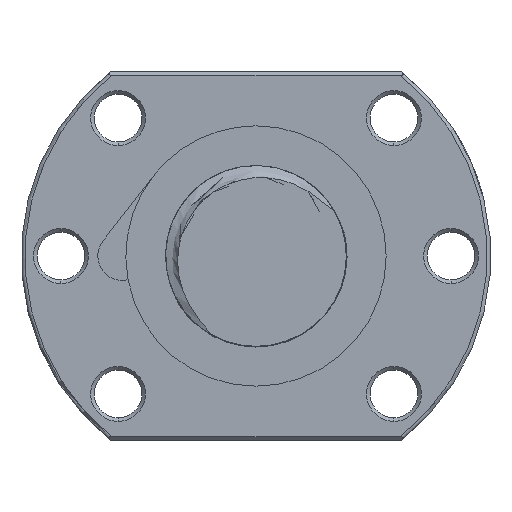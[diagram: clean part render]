
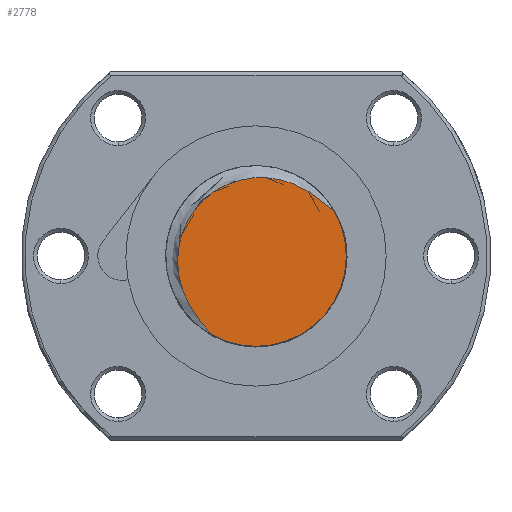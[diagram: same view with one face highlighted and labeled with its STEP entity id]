
A CAD part, left-side view. The second image highlights one B-rep face of the part: STEP entity #2778.
In plain terms, the highlighted planar face has unit normal (-1, 0, 0).
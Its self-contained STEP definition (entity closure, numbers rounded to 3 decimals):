
#1991 = VERTEX_POINT ( 'NONE', #10644 ) ;
#2000 = VERTEX_POINT ( 'NONE', #10695 ) ;
#2102 = EDGE_CURVE ( 'NONE', #2000, #1991, #16115, .T. ) ;
#2778 = ADVANCED_FACE ( 'NONE', ( #22899 ), #22891, .F. ) ;
#2779 = EDGE_LOOP ( 'NONE', ( #2780, #2781, #2783 ) ) ;
#2780 = ORIENTED_EDGE ( 'NONE', *, *, #2874, .F. ) ;
#2781 = ORIENTED_EDGE ( 'NONE', *, *, #2782, .T. ) ;
#2782 = EDGE_CURVE ( 'NONE', #2875, #1991, #22885, .T. ) ;
#2783 = ORIENTED_EDGE ( 'NONE', *, *, #2102, .F. ) ;
#2874 = EDGE_CURVE ( 'NONE', #2875, #2000, #24048, .T. ) ;
#2875 = VERTEX_POINT ( 'NONE', #24043 ) ;
#10644 = CARTESIAN_POINT ( 'NONE',  ( -95., 6.195, -10.857 ) ) ;
#10695 = CARTESIAN_POINT ( 'NONE',  ( -95., 0., -12.5 ) ) ;
#16111 = DIRECTION ( 'NONE',  ( 0., 1., 0. ) ) ;
#16112 = DIRECTION ( 'NONE',  ( 1., 0., 0. ) ) ;
#16113 = CARTESIAN_POINT ( 'NONE',  ( -95., 0., 0. ) ) ;
#16114 = AXIS2_PLACEMENT_3D ( 'NONE', #16113, #16112, #16111 ) ;
#16115 = CIRCLE ( 'NONE', #16114, 12.5 ) ;
#22885 = B_SPLINE_CURVE_WITH_KNOTS ( 'NONE', 3,
 ( #22955, #22954, #22953, #22952, #22951, #22950, #22949, #22948, #22947, #22946, #22945, #22944, #22943, #22942, #22941, #22940, #22939, #22938, #22937, #22936, #22935, #22934, #22933, #22932, #22931, #22930, #22929, #22928, #22927, #22926, #22925, #22924, #22923, #22922, #22921, #22920, #22919, #22918, #22917, #22916, #22915, #22914, #22913, #22912, #22911, #22910, #22909, #22908, #22907, #22906, #22992, #22991, #22990, #22989, #22988, #22987, #22986, #22985, #22984, #22983 ),
 .UNSPECIFIED., .F., .F.,
 ( 4, 2, 2, 2, 2, 2, 2, 2, 2, 2, 2, 2, 2, 2, 2, 2, 2, 2, 2, 2, 2, 2, 2, 2, 2, 2, 2, 2, 2, 4 ),
 ( 0.009, 0.01, 0.01, 0.011, 0.013, 0.014, 0.016, 0.018, 0.019, 0.022, 0.023, 0.024, 0.025, 0.027, 0.029, 0.03, 0.032, 0.033, 0.034, 0.037, 0.038, 0.039, 0.04, 0.042, 0.044, 0.045, 0.047, 0.048, 0.049, 0.049 ),
 .UNSPECIFIED. ) ;
#22887 = DIRECTION ( 'NONE',  ( 0., 0., -1. ) ) ;
#22888 = DIRECTION ( 'NONE',  ( 1., 0., 0. ) ) ;
#22889 = CARTESIAN_POINT ( 'NONE',  ( -95., 0., 0. ) ) ;
#22890 = AXIS2_PLACEMENT_3D ( 'NONE', #22889, #22888, #22887 ) ;
#22891 = PLANE ( 'NONE',  #22890 ) ;
#22899 = FACE_OUTER_BOUND ( 'NONE', #2779, .T. ) ;
#22906 = CARTESIAN_POINT ( 'NONE',  ( -95., 9.046, -7.083 ) ) ;
#22907 = CARTESIAN_POINT ( 'NONE',  ( -95., 9.663, -5.958 ) ) ;
#22908 = CARTESIAN_POINT ( 'NONE',  ( -95., 10.005, -5.177 ) ) ;
#22909 = CARTESIAN_POINT ( 'NONE',  ( -95., 10.397, -3.95 ) ) ;
#22910 = CARTESIAN_POINT ( 'NONE',  ( -95., 10.507, -3.531 ) ) ;
#22911 = CARTESIAN_POINT ( 'NONE',  ( -95., 10.682, -2.693 ) ) ;
#22912 = CARTESIAN_POINT ( 'NONE',  ( -95., 10.747, -2.271 ) ) ;
#22913 = CARTESIAN_POINT ( 'NONE',  ( -95., 10.834, -1.423 ) ) ;
#22914 = CARTESIAN_POINT ( 'NONE',  ( -95., 10.855, -0.996 ) ) ;
#22915 = CARTESIAN_POINT ( 'NONE',  ( -95., 10.851, -0.138 ) ) ;
#22916 = CARTESIAN_POINT ( 'NONE',  ( -95., 10.825, 0.295 ) ) ;
#22917 = CARTESIAN_POINT ( 'NONE',  ( -95., 10.677, 1.571 ) ) ;
#22918 = CARTESIAN_POINT ( 'NONE',  ( -95., 10.486, 2.402 ) ) ;
#22919 = CARTESIAN_POINT ( 'NONE',  ( -95., 10.062, 3.617 ) ) ;
#22920 = CARTESIAN_POINT ( 'NONE',  ( -95., 9.896, 4.018 ) ) ;
#22921 = CARTESIAN_POINT ( 'NONE',  ( -95., 9.525, 4.79 ) ) ;
#22922 = CARTESIAN_POINT ( 'NONE',  ( -95., 9.319, 5.163 ) ) ;
#22923 = CARTESIAN_POINT ( 'NONE',  ( -95., 8.865, 5.884 ) ) ;
#22924 = CARTESIAN_POINT ( 'NONE',  ( -95., 8.618, 6.232 ) ) ;
#22925 = CARTESIAN_POINT ( 'NONE',  ( -95., 8.082, 6.902 ) ) ;
#22926 = CARTESIAN_POINT ( 'NONE',  ( -95., 7.792, 7.225 ) ) ;
#22927 = CARTESIAN_POINT ( 'NONE',  ( -95., 6.883, 8.131 ) ) ;
#22928 = CARTESIAN_POINT ( 'NONE',  ( -95., 6.216, 8.661 ) ) ;
#22929 = CARTESIAN_POINT ( 'NONE',  ( -95., 5.124, 9.341 ) ) ;
#22930 = CARTESIAN_POINT ( 'NONE',  ( -95., 4.743, 9.549 ) ) ;
#22931 = CARTESIAN_POINT ( 'NONE',  ( -95., 3.97, 9.916 ) ) ;
#22932 = CARTESIAN_POINT ( 'NONE',  ( -95., 3.576, 10.077 ) ) ;
#22933 = CARTESIAN_POINT ( 'NONE',  ( -95., 2.772, 10.356 ) ) ;
#22934 = CARTESIAN_POINT ( 'NONE',  ( -95., 2.362, 10.473 ) ) ;
#22935 = CARTESIAN_POINT ( 'NONE',  ( -95., 1.527, 10.662 ) ) ;
#22936 = CARTESIAN_POINT ( 'NONE',  ( -95., 1.099, 10.734 ) ) ;
#22937 = CARTESIAN_POINT ( 'NONE',  ( -95., -0.179, 10.875 ) ) ;
#22938 = CARTESIAN_POINT ( 'NONE',  ( -95., -1.028, 10.875 ) ) ;
#22939 = CARTESIAN_POINT ( 'NONE',  ( -95., -2.296, 10.744 ) ) ;
#22940 = CARTESIAN_POINT ( 'NONE',  ( -95., -2.718, 10.678 ) ) ;
#22941 = CARTESIAN_POINT ( 'NONE',  ( -95., -3.56, 10.501 ) ) ;
#22942 = CARTESIAN_POINT ( 'NONE',  ( -95., -3.976, 10.389 ) ) ;
#22943 = CARTESIAN_POINT ( 'NONE',  ( -95., -5.194, 9.997 ) ) ;
#22944 = CARTESIAN_POINT ( 'NONE',  ( -95., -5.972, 9.656 ) ) ;
#22945 = CARTESIAN_POINT ( 'NONE',  ( -95., -7.094, 9.039 ) ) ;
#22946 = CARTESIAN_POINT ( 'NONE',  ( -95., -7.462, 8.815 ) ) ;
#22947 = CARTESIAN_POINT ( 'NONE',  ( -95., -8.177, 8.338 ) ) ;
#22948 = CARTESIAN_POINT ( 'NONE',  ( -95., -8.524, 8.086 ) ) ;
#22949 = CARTESIAN_POINT ( 'NONE',  ( -95., -9.201, 7.558 ) ) ;
#22950 = CARTESIAN_POINT ( 'NONE',  ( -95., -9.531, 7.283 ) ) ;
#22951 = CARTESIAN_POINT ( 'NONE',  ( -95., -10.022, 6.866 ) ) ;
#22952 = CARTESIAN_POINT ( 'NONE',  ( -95., -10.185, 6.727 ) ) ;
#22953 = CARTESIAN_POINT ( 'NONE',  ( -95., -10.515, 6.453 ) ) ;
#22954 = CARTESIAN_POINT ( 'NONE',  ( -95., -10.681, 6.317 ) ) ;
#22955 = CARTESIAN_POINT ( 'NONE',  ( -95., -10.857, 6.195 ) ) ;
#22983 = CARTESIAN_POINT ( 'NONE',  ( -95., 6.195, -10.857 ) ) ;
#22984 = CARTESIAN_POINT ( 'NONE',  ( -95., 6.318, -10.68 ) ) ;
#22985 = CARTESIAN_POINT ( 'NONE',  ( -95., 6.455, -10.513 ) ) ;
#22986 = CARTESIAN_POINT ( 'NONE',  ( -95., 6.73, -10.182 ) ) ;
#22987 = CARTESIAN_POINT ( 'NONE',  ( -95., 6.87, -10.018 ) ) ;
#22988 = CARTESIAN_POINT ( 'NONE',  ( -95., 7.288, -9.526 ) ) ;
#22989 = CARTESIAN_POINT ( 'NONE',  ( -95., 7.564, -9.195 ) ) ;
#22990 = CARTESIAN_POINT ( 'NONE',  ( -95., 8.092, -8.515 ) ) ;
#22991 = CARTESIAN_POINT ( 'NONE',  ( -95., 8.344, -8.168 ) ) ;
#22992 = CARTESIAN_POINT ( 'NONE',  ( -95., 8.822, -7.451 ) ) ;
#24043 = CARTESIAN_POINT ( 'NONE',  ( -95., -10.857, 6.195 ) ) ;
#24044 = DIRECTION ( 'NONE',  ( 0., 1., 0. ) ) ;
#24045 = DIRECTION ( 'NONE',  ( 1., 0., 0. ) ) ;
#24046 = CARTESIAN_POINT ( 'NONE',  ( -95., 0., 0. ) ) ;
#24047 = AXIS2_PLACEMENT_3D ( 'NONE', #24046, #24045, #24044 ) ;
#24048 = CIRCLE ( 'NONE', #24047, 12.5 ) ;
